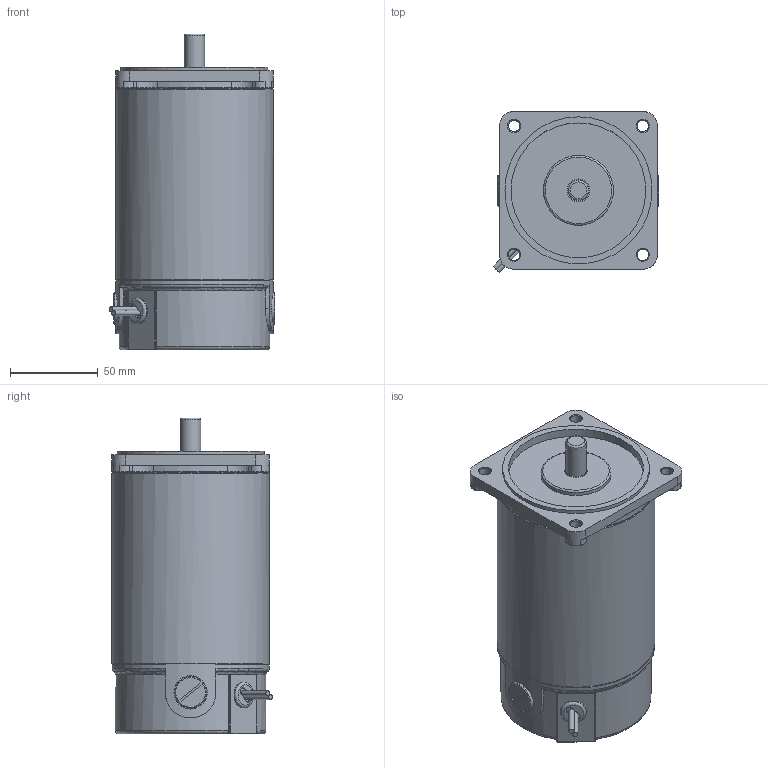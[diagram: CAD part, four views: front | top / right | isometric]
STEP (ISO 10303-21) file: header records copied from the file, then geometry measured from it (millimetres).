
FILE_DESCRIPTION((''),'2;1');
FILE_NAME('\\192.168.5.4\오메가연구소\DC CAD\02 - DC MOTOR 설계 - CAD FILE\DC MOTOR 3D 도면\표준 3D 파일\90각\200W\S9D200-ㅁCH.stp','2014-06-16T20:05:12',('ycw1227'),(''),'Autodesk Inventor 2011','Autodesk Inventor 2011','');
FILE_SCHEMA(('AUTOMOTIVE_DESIGN { 1 0 10303 214 1 1 1 1 }'));
Length unit declared in the file: millimetre
Products named in the file (1): 부품33
Bounding box: 94.79 x 91.63 x 180.5 mm (x, y, z)
Volume: 1004096.6 mm3; surface area: 67544.8 mm2
Topology: 2 solids, 4 shells, 186 faces, 426 edges, 262 vertices
Faces by surface type: plane 74, cylinder 65, torus 31, cone 13, sphere 2, bspline 1
Full cylindrical faces by diameter (mm): 3 x2, 5 x3, 6.5 x4, 11.57 x1, 12 x1, 13 x1, 14.63 x1, 14.65 x1, 18 x2, 19 x2, 40 x1, 77 x1, 84 x1, 90 x2
Entity records: 5545 total; most frequent: CARTESIAN_POINT 1289, DIRECTION 938, ORIENTED_EDGE 772, AXIS2_PLACEMENT_3D 396, EDGE_CURVE 386, VERTEX_POINT 257, EDGE_LOOP 244, CIRCLE 210
